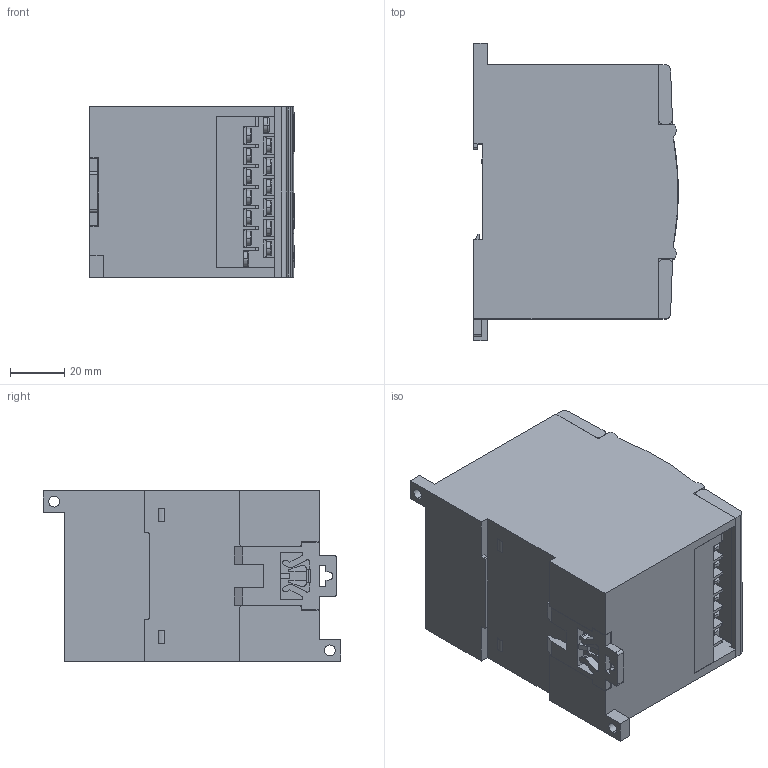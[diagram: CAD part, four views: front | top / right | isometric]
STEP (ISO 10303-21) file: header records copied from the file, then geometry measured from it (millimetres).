
FILE_DESCRIPTION (( 'STEP AP214' ), '1' );
FILE_NAME ('3D Ìîäåëü ÏÐ110-Õ.8Ä.Õ.Õ.STEP', '2016-10-25T22:45:52', ( '' ), ( '' ), 'SwSTEP 2.0', 'SolidWorks 2011', '' );
FILE_SCHEMA (( 'AUTOMOTIVE_DESIGN' ));
Length unit declared in the file: millimetre
Products named in the file (7): Ðàçúåì ïðîãðàììèðîâàíèÿ UART; 婰膲僗闉; Êðûøêà ïðîçðà÷íàÿ ÏÐ110; Ðîçåòêà ÌÕ-12; PR110_001FA01M; Êîðïóñ ÏÐ110-Õ.8Ä; 3D Ìîäåëü ÏÐ110-Õ.8Ä.Õ.Õ
Assembly tree (8 placements, depth 2):
  3D Ìîäåëü ÏÐ110-Õ.8Ä.Õ.Õ
    Êîðïóñ ÏÐ110-Õ.8Ä
    PR110_001FA01M
    Ðîçåòêà ÌÕ-12  x2
    Êðûøêà ïðîçðà÷íàÿ ÏÐ110  x2
    婰膲僗闉
    Ðàçúåì ïðîãðàììèðîâàíèÿ UART
Bounding box: 75.62 x 110 x 63 mm (x, y, z)
Volume: 411264.9 mm3; surface area: 65774.8 mm2
Topology: 37 solids, 37 shells, 1909 faces, 4939 edges, 3267 vertices
Faces by surface type: plane 1198, bspline 344, cylinder 259, cone 104, torus 4
Entity records: 75337 total; most frequent: CARTESIAN_POINT 27872, ORIENTED_EDGE 7814, DIRECTION 5842, EDGE_CURVE 3907, VERTEX_POINT 2591, LINE 2058, VECTOR 2058, AXIS2_PLACEMENT_3D 1892
